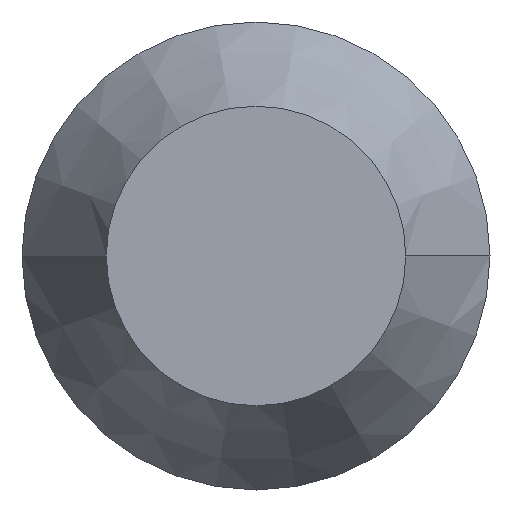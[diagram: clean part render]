
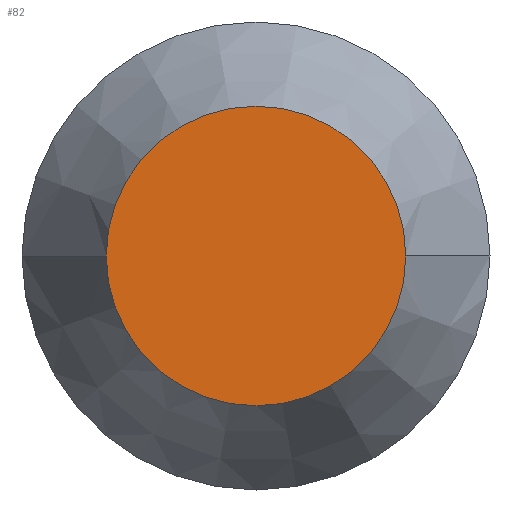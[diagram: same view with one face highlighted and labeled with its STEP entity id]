
A CAD part, left-side view. The second image highlights one B-rep face of the part: STEP entity #82.
In plain terms, the highlighted planar face has unit normal (-1, 0, 0).
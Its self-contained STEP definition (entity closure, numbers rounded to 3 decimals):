
#82 = ADVANCED_FACE( '', ( #98 ), #99, .T. );
#98 = FACE_OUTER_BOUND( '', #114, .T. );
#99 = PLANE( '', #115 );
#114 = EDGE_LOOP( '', ( #163, #164 ) );
#115 = AXIS2_PLACEMENT_3D( '', #165, #166, #167 );
#163 = ORIENTED_EDGE( '', *, *, #171, .T. );
#164 = ORIENTED_EDGE( '', *, *, #181, .T. );
#165 = CARTESIAN_POINT( '', ( -15.5, 0.8, 0. ) );
#166 = DIRECTION( '', ( -1., 0., 0. ) );
#167 = DIRECTION( '', ( 0., 1., 0. ) );
#171 = EDGE_CURVE( '', #183, #187, #189, .T. );
#181 = EDGE_CURVE( '', #187, #183, #203, .T. );
#183 = VERTEX_POINT( '', #205 );
#187 = VERTEX_POINT( '', #210 );
#189 = CIRCLE( '', #213, 1.6 );
#203 = CIRCLE( '', #231, 1.6 );
#205 = CARTESIAN_POINT( '', ( -15.5, 1.6, 0. ) );
#210 = CARTESIAN_POINT( '', ( -15.5, -1.6, 0. ) );
#213 = AXIS2_PLACEMENT_3D( '', #237, #238, #239 );
#231 = AXIS2_PLACEMENT_3D( '', #259, #260, #261 );
#237 = CARTESIAN_POINT( '', ( -15.5, 0., 0. ) );
#238 = DIRECTION( '', ( -1., 0., 0. ) );
#239 = DIRECTION( '', ( 0., 1., 0. ) );
#259 = CARTESIAN_POINT( '', ( -15.5, 0., 0. ) );
#260 = DIRECTION( '', ( -1., 0., 0. ) );
#261 = DIRECTION( '', ( 0., 1., 0. ) );
